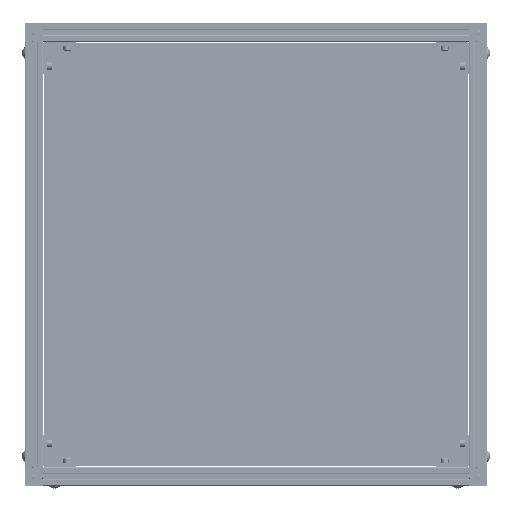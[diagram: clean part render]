
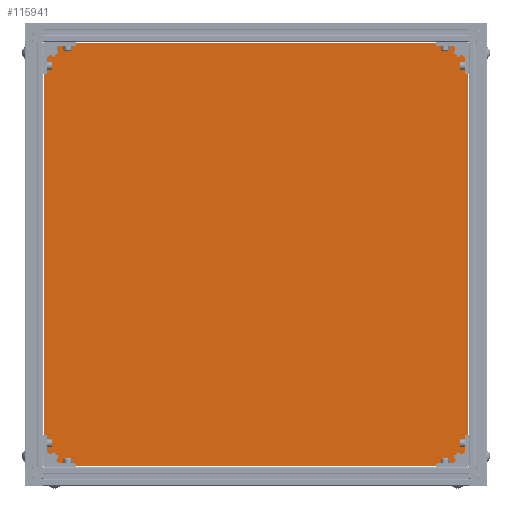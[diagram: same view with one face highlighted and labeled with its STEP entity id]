
A CAD part, front view. The second image highlights one B-rep face of the part: STEP entity #115941.
In plain terms, the highlighted planar face has unit normal (0, -1, 0).
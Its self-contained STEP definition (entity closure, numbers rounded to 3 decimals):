
#115471=CARTESIAN_POINT(' ',(-229.,0.,229.));
#115472=VERTEX_POINT(' ',#115471);
#115486=CARTESIAN_POINT(' ',(-229.,0.,229.));
#115491=DIRECTION(' ',(1.,0.,0.));
#115496=VECTOR(' ',#115491,1.);
#115501=LINE('',#115486,#115496);
#115506=CARTESIAN_POINT(' ',(229.,0.,229.));
#115507=VERTEX_POINT(' ',#115506);
#115511=EDGE_CURVE(' ',#115472,#115507,#115501,.T.);
#115601=CARTESIAN_POINT(' ',(229.,0.,229.));
#115606=DIRECTION(' ',(0.,0.,-1.));
#115611=VECTOR(' ',#115606,1.);
#115616=LINE('',#115601,#115611);
#115621=CARTESIAN_POINT(' ',(229.,0.,-229.));
#115622=VERTEX_POINT(' ',#115621);
#115626=EDGE_CURVE(' ',#115507,#115622,#115616,.T.);
#115716=CARTESIAN_POINT(' ',(229.,0.,-229.));
#115721=DIRECTION(' ',(-1.,0.,0.));
#115726=VECTOR(' ',#115721,1.);
#115731=LINE('',#115716,#115726);
#115736=CARTESIAN_POINT(' ',(-229.,0.,-229.));
#115737=VERTEX_POINT(' ',#115736);
#115741=EDGE_CURVE(' ',#115622,#115737,#115731,.T.);
#115831=CARTESIAN_POINT(' ',(-229.,0.,-229.));
#115836=DIRECTION(' ',(0.,0.,1.));
#115841=VECTOR(' ',#115836,1.);
#115846=LINE('',#115831,#115841);
#115851=EDGE_CURVE(' ',#115737,#115472,#115846,.T.);
#115886=DIRECTION(' ',(0.,-1.,0.));
#115891=CARTESIAN_POINT(' ',(-274.8,0.,274.8));
#115896=DIRECTION(' ',(0.,0.,-1.));
#115901=AXIS2_PLACEMENT_3D(' ',#115891,#115886,#115896);
#115906=PLANE('',#115901);
#115911=ORIENTED_EDGE(' ',*,*,#115741,.F.);
#115916=ORIENTED_EDGE(' ',*,*,#115626,.F.);
#115921=ORIENTED_EDGE(' ',*,*,#115511,.F.);
#115926=ORIENTED_EDGE(' ',*,*,#115851,.F.);
#115931=EDGE_LOOP(' ',(#115911,#115916,#115921,#115926));
#115936=FACE_OUTER_BOUND(' ',#115931,.T.);
#115941=ADVANCED_FACE('',(#115936),#115906,.T.);
